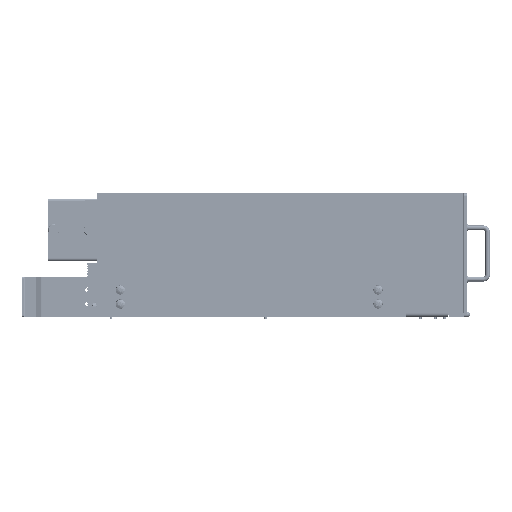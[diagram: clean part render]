
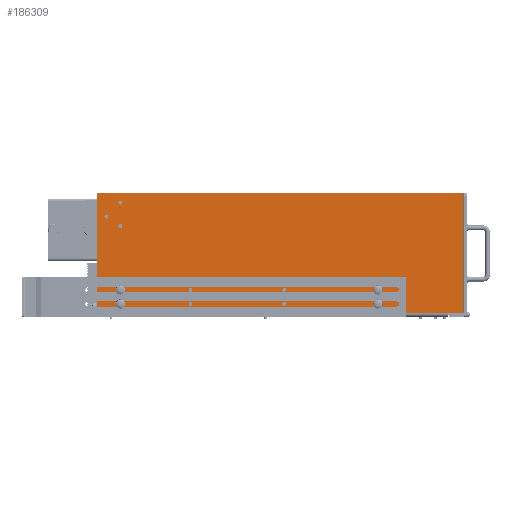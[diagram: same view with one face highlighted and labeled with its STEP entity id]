
A CAD part, left-side view. The second image highlights one B-rep face of the part: STEP entity #186309.
In plain terms, the highlighted planar face has unit normal (-1, 0, 0).
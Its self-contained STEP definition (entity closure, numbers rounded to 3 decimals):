
#12008=FACE_BOUND('',#30747,.T.);
#12009=FACE_BOUND('',#30748,.T.);
#12010=FACE_BOUND('',#30749,.T.);
#12011=FACE_BOUND('',#30750,.T.);
#12012=FACE_BOUND('',#30751,.T.);
#12013=FACE_BOUND('',#30752,.T.);
#12014=FACE_BOUND('',#30753,.T.);
#12015=FACE_BOUND('',#30754,.T.);
#12016=FACE_BOUND('',#30755,.T.);
#12017=FACE_BOUND('',#30756,.T.);
#12018=FACE_BOUND('',#30757,.T.);
#13811=PLANE('',#197918);
#20919=FACE_OUTER_BOUND('',#30746,.T.);
#30746=EDGE_LOOP('',(#131932,#131933,#131934,#131935,#131936,#131937,#131938));
#30747=EDGE_LOOP('',(#131939));
#30748=EDGE_LOOP('',(#131940));
#30749=EDGE_LOOP('',(#131941));
#30750=EDGE_LOOP('',(#131942));
#30751=EDGE_LOOP('',(#131943));
#30752=EDGE_LOOP('',(#131944));
#30753=EDGE_LOOP('',(#131945));
#30754=EDGE_LOOP('',(#131946));
#30755=EDGE_LOOP('',(#131947));
#30756=EDGE_LOOP('',(#131948));
#30757=EDGE_LOOP('',(#131949));
#42354=LINE('',#266551,#62533);
#42356=LINE('',#266556,#62535);
#42359=LINE('',#266563,#62538);
#42362=LINE('',#266568,#62541);
#42370=LINE('',#266588,#62549);
#42371=LINE('',#266591,#62550);
#42372=LINE('',#266592,#62551);
#62533=VECTOR('',#214148,10.);
#62535=VECTOR('',#214152,10.);
#62538=VECTOR('',#214157,10.);
#62541=VECTOR('',#214162,10.);
#62549=VECTOR('',#214182,10.);
#62550=VECTOR('',#214185,10.);
#62551=VECTOR('',#214186,10.);
#82666=CIRCLE('',#197842,2.067);
#82668=CIRCLE('',#197845,2.067);
#82670=CIRCLE('',#197848,2.067);
#82672=CIRCLE('',#197851,2.067);
#82674=CIRCLE('',#197854,2.067);
#82676=CIRCLE('',#197857,2.067);
#82678=CIRCLE('',#197860,2.067);
#82680=CIRCLE('',#197863,2.067);
#82682=CIRCLE('',#197866,2.067);
#82684=CIRCLE('',#197869,2.067);
#82686=CIRCLE('',#197872,2.067);
#88294=VERTEX_POINT('',#266382);
#88296=VERTEX_POINT('',#266388);
#88298=VERTEX_POINT('',#266394);
#88300=VERTEX_POINT('',#266400);
#88302=VERTEX_POINT('',#266406);
#88304=VERTEX_POINT('',#266412);
#88306=VERTEX_POINT('',#266418);
#88308=VERTEX_POINT('',#266424);
#88310=VERTEX_POINT('',#266430);
#88312=VERTEX_POINT('',#266436);
#88314=VERTEX_POINT('',#266442);
#88347=VERTEX_POINT('',#266540);
#88348=VERTEX_POINT('',#266544);
#88350=VERTEX_POINT('',#266555);
#88351=VERTEX_POINT('',#266559);
#88353=VERTEX_POINT('',#266562);
#88360=VERTEX_POINT('',#266586);
#88361=VERTEX_POINT('',#266590);
#105494=EDGE_CURVE('',#88294,#88294,#82666,.T.);
#105497=EDGE_CURVE('',#88296,#88296,#82668,.T.);
#105500=EDGE_CURVE('',#88298,#88298,#82670,.T.);
#105503=EDGE_CURVE('',#88300,#88300,#82672,.T.);
#105506=EDGE_CURVE('',#88302,#88302,#82674,.T.);
#105509=EDGE_CURVE('',#88304,#88304,#82676,.T.);
#105512=EDGE_CURVE('',#88306,#88306,#82678,.T.);
#105515=EDGE_CURVE('',#88308,#88308,#82680,.T.);
#105518=EDGE_CURVE('',#88310,#88310,#82682,.T.);
#105521=EDGE_CURVE('',#88312,#88312,#82684,.T.);
#105524=EDGE_CURVE('',#88314,#88314,#82686,.T.);
#105577=EDGE_CURVE('',#88347,#88348,#42354,.T.);
#105579=EDGE_CURVE('',#88350,#88348,#42356,.T.);
#105582=EDGE_CURVE('',#88353,#88351,#42359,.T.);
#105585=EDGE_CURVE('',#88350,#88351,#42362,.T.);
#105596=EDGE_CURVE('',#88353,#88360,#42370,.T.);
#105597=EDGE_CURVE('',#88347,#88361,#42371,.T.);
#105598=EDGE_CURVE('',#88361,#88360,#42372,.T.);
#131932=ORIENTED_EDGE('',*,*,#105585,.F.);
#131933=ORIENTED_EDGE('',*,*,#105579,.T.);
#131934=ORIENTED_EDGE('',*,*,#105577,.F.);
#131935=ORIENTED_EDGE('',*,*,#105597,.T.);
#131936=ORIENTED_EDGE('',*,*,#105598,.T.);
#131937=ORIENTED_EDGE('',*,*,#105596,.F.);
#131938=ORIENTED_EDGE('',*,*,#105582,.T.);
#131939=ORIENTED_EDGE('',*,*,#105494,.T.);
#131940=ORIENTED_EDGE('',*,*,#105497,.T.);
#131941=ORIENTED_EDGE('',*,*,#105500,.T.);
#131942=ORIENTED_EDGE('',*,*,#105503,.T.);
#131943=ORIENTED_EDGE('',*,*,#105506,.T.);
#131944=ORIENTED_EDGE('',*,*,#105509,.T.);
#131945=ORIENTED_EDGE('',*,*,#105512,.T.);
#131946=ORIENTED_EDGE('',*,*,#105515,.T.);
#131947=ORIENTED_EDGE('',*,*,#105518,.T.);
#131948=ORIENTED_EDGE('',*,*,#105521,.T.);
#131949=ORIENTED_EDGE('',*,*,#105524,.T.);
#186309=ADVANCED_FACE('',(#20919,#12008,#12009,#12010,#12011,#12012,#12013,
#12014,#12015,#12016,#12017,#12018),#13811,.T.);
#197842=AXIS2_PLACEMENT_3D('',#266384,#213968,#213969);
#197845=AXIS2_PLACEMENT_3D('',#266390,#213975,#213976);
#197848=AXIS2_PLACEMENT_3D('',#266396,#213982,#213983);
#197851=AXIS2_PLACEMENT_3D('',#266402,#213989,#213990);
#197854=AXIS2_PLACEMENT_3D('',#266408,#213996,#213997);
#197857=AXIS2_PLACEMENT_3D('',#266414,#214003,#214004);
#197860=AXIS2_PLACEMENT_3D('',#266420,#214010,#214011);
#197863=AXIS2_PLACEMENT_3D('',#266426,#214017,#214018);
#197866=AXIS2_PLACEMENT_3D('',#266432,#214024,#214025);
#197869=AXIS2_PLACEMENT_3D('',#266438,#214031,#214032);
#197872=AXIS2_PLACEMENT_3D('',#266444,#214038,#214039);
#197918=AXIS2_PLACEMENT_3D('',#266589,#214183,#214184);
#213968=DIRECTION('center_axis',(1.,0.,0.));
#213969=DIRECTION('ref_axis',(0.,0.,
1.));
#213975=DIRECTION('center_axis',(1.,0.,0.));
#213976=DIRECTION('ref_axis',(0.,0.,
1.));
#213982=DIRECTION('center_axis',(1.,0.,0.));
#213983=DIRECTION('ref_axis',(0.,0.,
1.));
#213989=DIRECTION('center_axis',(1.,0.,0.));
#213990=DIRECTION('ref_axis',(0.,0.,
1.));
#213996=DIRECTION('center_axis',(1.,0.,0.));
#213997=DIRECTION('ref_axis',(0.,0.,
1.));
#214003=DIRECTION('center_axis',(1.,0.,0.));
#214004=DIRECTION('ref_axis',(0.,0.,
1.));
#214010=DIRECTION('center_axis',(1.,0.,0.));
#214011=DIRECTION('ref_axis',(0.,0.,
1.));
#214017=DIRECTION('center_axis',(1.,0.,0.));
#214018=DIRECTION('ref_axis',(0.,0.,
1.));
#214024=DIRECTION('center_axis',(1.,0.,0.));
#214025=DIRECTION('ref_axis',(0.,0.,
1.));
#214031=DIRECTION('center_axis',(1.,0.,0.));
#214032=DIRECTION('ref_axis',(0.,0.,
1.));
#214038=DIRECTION('center_axis',(1.,0.,0.));
#214039=DIRECTION('ref_axis',(0.,0.,
1.));
#214148=DIRECTION('',(0.,0.,-1.));
#214152=DIRECTION('',(0.,-1.,0.));
#214157=DIRECTION('',(0.,0.,-1.));
#214162=DIRECTION('',(0.,1.,0.));
#214182=DIRECTION('',(0.,1.,0.));
#214183=DIRECTION('center_axis',(-1.,0.,0.));
#214184=DIRECTION('ref_axis',(0.,0.,
1.));
#214185=DIRECTION('',(0.,1.,0.));
#214186=DIRECTION('',(0.,0.,-1.));
#266382=CARTESIAN_POINT('',(-223.,-112.5,9.233));
#266384=CARTESIAN_POINT('Origin',(-223.,-112.5,11.3));
#266388=CARTESIAN_POINT('',(-223.,-12.5,9.233));
#266390=CARTESIAN_POINT('Origin',(-223.,-12.5,11.3));
#266394=CARTESIAN_POINT('',(-223.,87.5,9.233));
#266396=CARTESIAN_POINT('Origin',(-223.,87.5,11.3));
#266400=CARTESIAN_POINT('',(-223.,162.5,9.233));
#266402=CARTESIAN_POINT('Origin',(-223.,162.5,11.3));
#266406=CARTESIAN_POINT('',(-223.,162.5,92.433));
#266408=CARTESIAN_POINT('Origin',(-223.,162.5,94.5));
#266412=CARTESIAN_POINT('',(-223.,162.5,117.433));
#266414=CARTESIAN_POINT('Origin',(-223.,162.5,119.5));
#266418=CARTESIAN_POINT('',(-223.,162.5,24.233));
#266420=CARTESIAN_POINT('Origin',(-223.,162.5,26.3));
#266424=CARTESIAN_POINT('',(-223.,87.5,24.233));
#266426=CARTESIAN_POINT('Origin',(-223.,87.5,26.3));
#266430=CARTESIAN_POINT('',(-223.,-12.5,24.233));
#266432=CARTESIAN_POINT('Origin',(-223.,-12.5,26.3));
#266436=CARTESIAN_POINT('',(-223.,-112.5,24.233));
#266438=CARTESIAN_POINT('Origin',(-223.,-112.5,26.3));
#266442=CARTESIAN_POINT('',(-223.,177.5,102.433));
#266444=CARTESIAN_POINT('Origin',(-223.,177.5,104.5));
#266540=CARTESIAN_POINT('',(-223.,-203.,129.5));
#266544=CARTESIAN_POINT('',(-223.,-203.,1.5));
#266551=CARTESIAN_POINT('',(-223.,-203.,129.5));
#266555=CARTESIAN_POINT('',(-223.,-187.5,1.5));
#266556=CARTESIAN_POINT('',(-223.,-187.5,1.5));
#266559=CARTESIAN_POINT('',(-223.,183.,1.5));
#266562=CARTESIAN_POINT('',(-223.,183.,3.));
#266563=CARTESIAN_POINT('',(-223.,183.,-2.93));
#266568=CARTESIAN_POINT('',(-223.,-0.01,1.5));
#266586=CARTESIAN_POINT('',(-223.,187.5,3.));
#266588=CARTESIAN_POINT('',(-223.,91.49,3.));
#266589=CARTESIAN_POINT('Origin',(-223.,-0.02,63.305));
#266590=CARTESIAN_POINT('',(-223.,187.5,129.5));
#266591=CARTESIAN_POINT('',(-223.,-187.5,129.5));
#266592=CARTESIAN_POINT('',(-223.,187.5,1.5));
